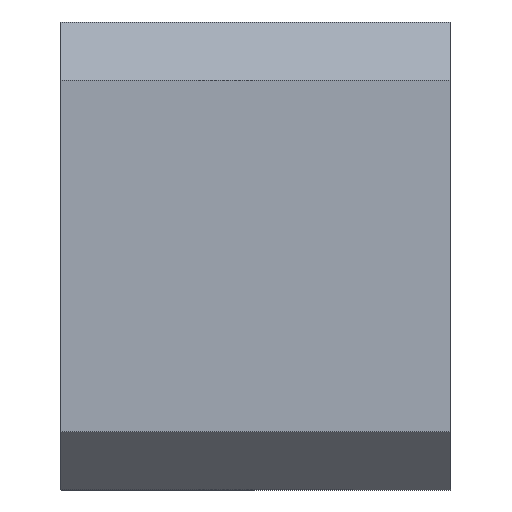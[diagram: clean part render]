
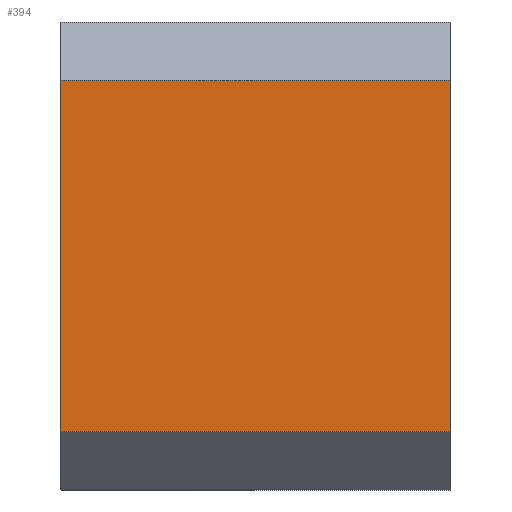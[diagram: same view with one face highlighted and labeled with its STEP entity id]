
A CAD part, left-side view. The second image highlights one B-rep face of the part: STEP entity #394.
In plain terms, the highlighted planar face has unit normal (-1, 0, 0).
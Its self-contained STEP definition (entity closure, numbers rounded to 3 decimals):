
#21 = FACE_OUTER_BOUND ( 'NONE', #488, .T. ) ;
#28 = CARTESIAN_POINT ( 'NONE',  ( -32.255, 10.814, 1.5 ) ) ;
#54 = VECTOR ( 'NONE', #535, 1000. ) ;
#66 = LINE ( 'NONE', #485, #54 ) ;
#75 = VECTOR ( 'NONE', #533, 1000. ) ;
#77 = LINE ( 'NONE', #505, #75 ) ;
#86 = LINE ( 'NONE', #500, #103 ) ;
#93 = VERTEX_POINT ( 'NONE', #28 ) ;
#96 = EDGE_CURVE ( 'NONE', #93, #109, #353, .T. ) ;
#103 = VECTOR ( 'NONE', #471, 1000. ) ;
#109 = VERTEX_POINT ( 'NONE', #200 ) ;
#146 = VERTEX_POINT ( 'NONE', #626 ) ;
#157 = CARTESIAN_POINT ( 'NONE',  ( -32.255, 5.814, 1.5 ) ) ;
#161 = CARTESIAN_POINT ( 'NONE',  ( -32.255, 0.814, 1.5 ) ) ;
#167 = ORIENTED_EDGE ( 'NONE', *, *, #504, .T. ) ;
#178 = VECTOR ( 'NONE', #637, 1000. ) ;
#200 = CARTESIAN_POINT ( 'NONE',  ( -32.255, 0.814, 1.5 ) ) ;
#238 = ORIENTED_EDGE ( 'NONE', *, *, #422, .F. ) ;
#277 = CARTESIAN_POINT ( 'NONE',  ( -32.255, 10.814, 10.5 ) ) ;
#293 = ORIENTED_EDGE ( 'NONE', *, *, #96, .T. ) ;
#297 = DIRECTION ( 'NONE',  ( -1., 0., 0. ) ) ;
#353 = LINE ( 'NONE', #157, #178 ) ;
#358 = DIRECTION ( 'NONE',  ( 0., 0., 1. ) ) ;
#363 = PLANE ( 'NONE',  #449 ) ;
#394 = ADVANCED_FACE ( 'NONE', ( #21 ), #363, .T. ) ;
#422 = EDGE_CURVE ( 'NONE', #146, #109, #66, .T. ) ;
#449 = AXIS2_PLACEMENT_3D ( 'NONE', #161, #297, #358 ) ;
#471 = DIRECTION ( 'NONE',  ( 0., 0., -1. ) ) ;
#476 = EDGE_CURVE ( 'NONE', #146, #558, #77, .T. ) ;
#485 = CARTESIAN_POINT ( 'NONE',  ( -32.255, 0.814, 6. ) ) ;
#488 = EDGE_LOOP ( 'NONE', ( #167, #293, #238, #548 ) ) ;
#500 = CARTESIAN_POINT ( 'NONE',  ( -32.255, 10.814, 6. ) ) ;
#504 = EDGE_CURVE ( 'NONE', #558, #93, #86, .T. ) ;
#505 = CARTESIAN_POINT ( 'NONE',  ( -32.255, 5.814, 10.5 ) ) ;
#533 = DIRECTION ( 'NONE',  ( 0., 1., 0. ) ) ;
#535 = DIRECTION ( 'NONE',  ( 0., 0., -1. ) ) ;
#548 = ORIENTED_EDGE ( 'NONE', *, *, #476, .T. ) ;
#558 = VERTEX_POINT ( 'NONE', #277 ) ;
#626 = CARTESIAN_POINT ( 'NONE',  ( -32.255, 0.814, 10.5 ) ) ;
#637 = DIRECTION ( 'NONE',  ( 0., -1., 0. ) ) ;
